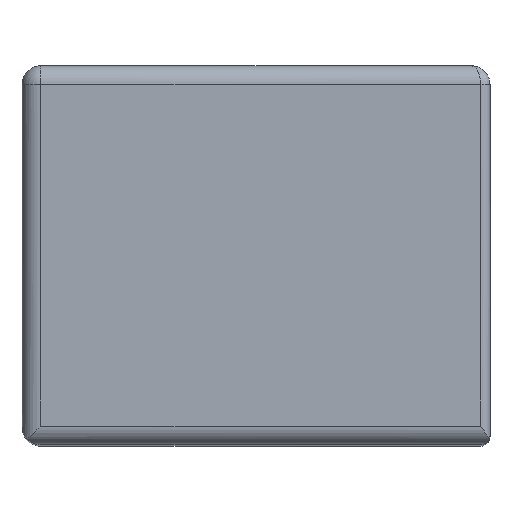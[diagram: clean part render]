
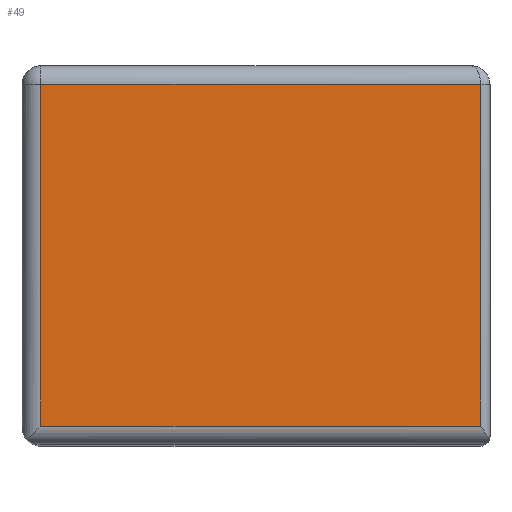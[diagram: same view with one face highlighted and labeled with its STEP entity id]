
A CAD part, top view. The second image highlights one B-rep face of the part: STEP entity #49.
In plain terms, the highlighted planar face has unit normal (0, 0, 1).
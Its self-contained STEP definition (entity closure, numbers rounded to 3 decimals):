
#49=ADVANCED_FACE('',(#159),#158,.T.);
#158=PLANE('',#476);
#159=FACE_OUTER_BOUND('',#477,.T.);
#473=CARTESIAN_POINT('',(-2.7,-42.15,94.4));
#474=DIRECTION('',(0.,0.,1.));
#475=DIRECTION('',(1.,0.,0.));
#476=AXIS2_PLACEMENT_3D('',#473,#474,#475);
#477=EDGE_LOOP('',(#688,#689,#690,#691));
#688=ORIENTED_EDGE('',*,*,#808,.T.);
#689=ORIENTED_EDGE('',*,*,#809,.T.);
#690=ORIENTED_EDGE('',*,*,#780,.T.);
#691=ORIENTED_EDGE('',*,*,#806,.T.);
#780=EDGE_CURVE('',#840,#862,#869,.T.);
#806=EDGE_CURVE('',#862,#1018,#1044,.T.);
#808=EDGE_CURVE('',#1018,#1056,#1057,.T.);
#809=EDGE_CURVE('',#1056,#840,#1063,.T.);
#840=VERTEX_POINT('',#1262);
#862=VERTEX_POINT('',#1282);
#869=LINE('',#1287,#1288);
#1018=VERTEX_POINT('',#1393);
#1044=LINE('',#1411,#1412);
#1056=VERTEX_POINT('',#1417);
#1057=LINE('',#1418,#1419);
#1063=LINE('',#1421,#1422);
#1262=CARTESIAN_POINT('',(49.,-38.5,94.4));
#1282=CARTESIAN_POINT('',(49.,-2.,94.4));
#1287=CARTESIAN_POINT('',(49.,-38.5,94.4));
#1288=VECTOR('',#1289,36.5);
#1289=DIRECTION('',(0.,1.,0.));
#1393=CARTESIAN_POINT('',(2.,-2.,94.4));
#1411=CARTESIAN_POINT('',(49.,-2.,94.4));
#1412=VECTOR('',#1413,47.);
#1413=DIRECTION('',(-1.,0.,0.));
#1417=CARTESIAN_POINT('',(2.,-38.5,94.4));
#1418=CARTESIAN_POINT('',(2.,-2.,94.4));
#1419=VECTOR('',#1420,36.5);
#1420=DIRECTION('',(0.,-1.,0.));
#1421=CARTESIAN_POINT('',(2.,-38.5,94.4));
#1422=VECTOR('',#1423,47.);
#1423=DIRECTION('',(1.,0.,0.));
